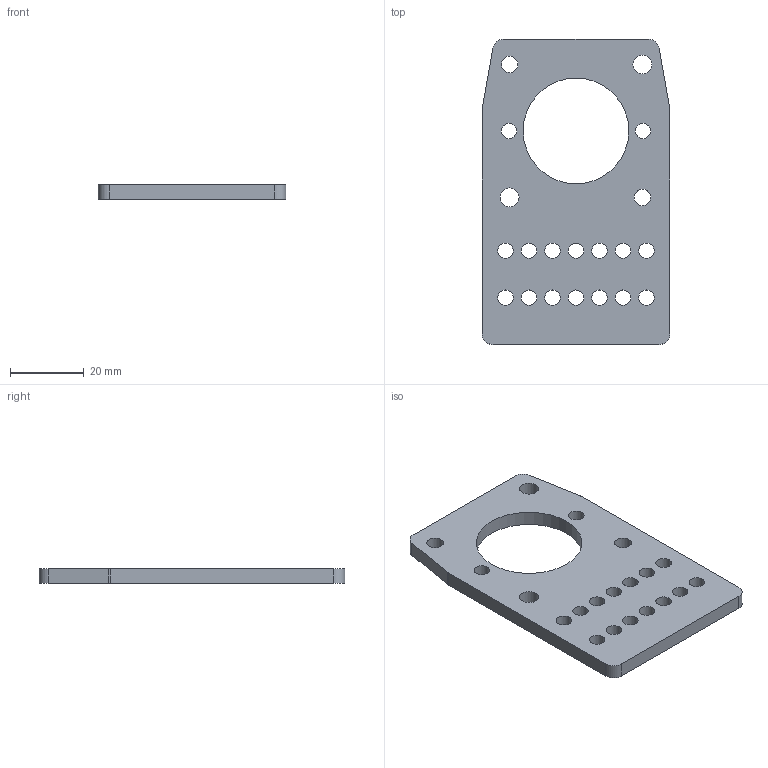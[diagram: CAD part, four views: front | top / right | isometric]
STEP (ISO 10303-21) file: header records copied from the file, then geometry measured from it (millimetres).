
FILE_DESCRIPTION(/* description */ (''),/* implementation_level */ '2;1');
FILE_NAME(/* name */ 'Bearing Megaplate.step',/* time_stamp */ '2022-12-29T16:09:00-08:00',/* author */ (''),/* organization */ (''),/* preprocessor_version */ 'ST-DEVELOPER v19.2',/* originating_system */ 'Autodesk Translation Framework v11.17.0.187',/* authorisation */ '');
FILE_SCHEMA (('AUTOMOTIVE_DESIGN { 1 0 10303 214 3 1 1 }'));
Length unit declared in the file: inch
Products named in the file (1): Bearing Megaplate
Bounding box: 50.8 x 82.55 x 4 mm (x, y, z)
Volume: 12764.4 mm3; surface area: 8845.3 mm2
Topology: 1 solids, 1 shells, 35 faces, 99 edges, 66 vertices
Faces by surface type: cylinder 27, plane 8
Full cylindrical faces by diameter (mm): 4.166 x16, 4.496 x2, 5.105 x2, 28.575 x1
Entity records: 1293 total; most frequent: DIRECTION 225, CARTESIAN_POINT 201, ORIENTED_EDGE 198, EDGE_CURVE 99, AXIS2_PLACEMENT_3D 90, EDGE_LOOP 77, VERTEX_POINT 66, CIRCLE 54
